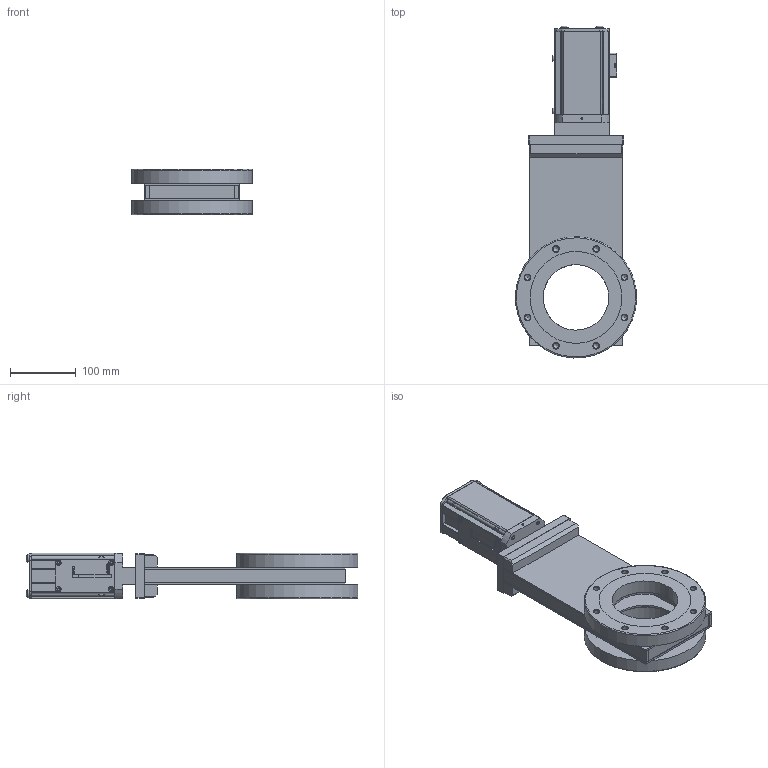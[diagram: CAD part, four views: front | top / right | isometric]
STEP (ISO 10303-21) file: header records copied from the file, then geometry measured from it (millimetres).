
FILE_DESCRIPTION(/* description */ (''),/* implementation_level */ '2;1');
FILE_NAME(/* name */ '1760015578_203.stp',/* time_stamp */ '2014-09-04T15:43:37+02:00',/* author */ (''),/* organization */ (''),/* preprocessor_version */ 'ST-DEVELOPER v11',/* originating_system */ 'SIEMENS PLM Software NX 7.5',/* authorisation */ '');
FILE_SCHEMA (('AP203_CONFIGURATION_CONTROLLED_3D_DESIGN_OF_MECHANICAL_PARTS_AND_ASSEMBLIES_MIM_LF'));
Length unit declared in the file: millimetre
Products named in the file (25): 21286-01.1; 21285-01.1; 212031.1; 21287-01.1; n-6024-526; N-7100-014_2.1; 94828-01.1; N-7100-012_3.1; N-6024-538.1; 68057-01.1; 69128.3; 72872-01.1; 61352-01.1; N-6024-571.1; 85948-01.1; 94222-01.1; 73003-01.1; 63216-01.1; 94827-r1.1; 78103-r1.1; 82468-R1.2; 212039.7; 212156.4; 94235-R1.2; 767597
Assembly tree (38 placements, depth 4):
  767597
    94235-R1.2
      73003-01.1  x4
      94222-01.1
      85948-01.1
      N-6024-571.1  x4
    212156.4
      61352-01.1  x2
      212039.7
        21287-01.1
        212031.1  x2
        21285-01.1  x2
        21286-01.1  x2
    82468-R1.2
      72872-01.1
      69128.3
    63216-01.1
    78103-r1.1
      68057-01.1
      N-6024-538.1  x4
    94827-r1.1
      N-7100-012_3.1
      94828-01.1
      N-7100-014_2.1
      n-6024-526  x2
Bounding box: 184.82 x 506.53 x 70 mm (x, y, z)
Volume: 1770786.4 mm3; surface area: 525280 mm2
Topology: 32 solids, 32 shells, 869 faces, 2188 edges, 1477 vertices
Faces by surface type: plane 544, cylinder 195, cone 73, extrusion 29, torus 18, sphere 10
Full cylindrical faces by diameter (mm): 0.7 x1, 2.125 x1, 2.5 x2, 2.65 x1, 3 x5, 3.3 x6, 4 x8, 4.2 x3, 4.3 x4, 4.4 x4, 4.625 x2, 4.675 x2, 5 x6, 5.9 x1, 6 x14, 6.6 x4, 6.8 x5, 7.05 x1, 7.982 x4, 8 x4, 8.5 x16, 8.611 x2, 9 x10, 9.1 x1, 12 x4, 12.7 x1, 14.1 x7, 59.975 x1, 60.15 x2, 61.9 x1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
Entity records: 22505 total; most frequent: CARTESIAN_POINT 4951, DIRECTION 2790, ORIENTED_EDGE 2714, EDGE_CURVE 1357, VERTEX_POINT 1025, AXIS2_PLACEMENT_3D 1012, EDGE_LOOP 894, VECTOR 766
